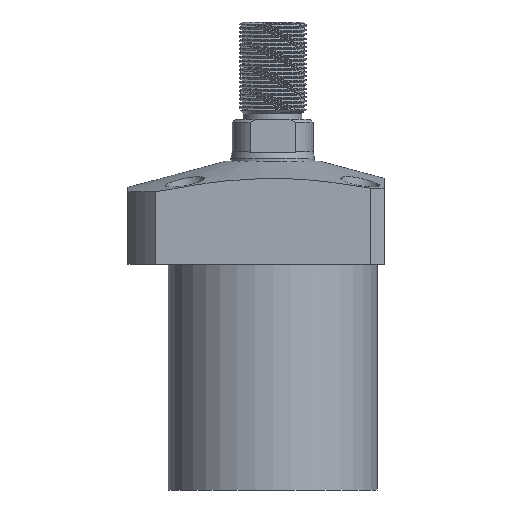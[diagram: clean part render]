
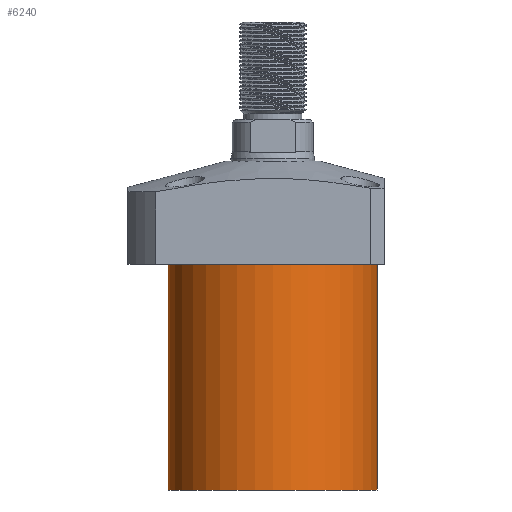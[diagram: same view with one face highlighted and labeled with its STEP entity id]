
A CAD part, front view. The second image highlights one B-rep face of the part: STEP entity #6240.
In plain terms, the highlighted cylindrical face has radius 37.5 mm (diameter 75 mm), a partial arc.
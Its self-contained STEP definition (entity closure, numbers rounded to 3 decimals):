
#307 = CIRCLE ( 'NONE', #405, 37.5 ) ;
#321 = CARTESIAN_POINT ( 'NONE',  ( -37.5, 0., -99.5 ) ) ;
#388 = DIRECTION ( 'NONE',  ( 0., 0., -1. ) ) ;
#391 = AXIS2_PLACEMENT_3D ( 'NONE', #5739, #2572, #1335 ) ;
#396 = ORIENTED_EDGE ( 'NONE', *, *, #6704, .F. ) ;
#405 = AXIS2_PLACEMENT_3D ( 'NONE', #6884, #3768, #873 ) ;
#506 = CARTESIAN_POINT ( 'NONE',  ( 37.5, 0., -18.5 ) ) ;
#553 = EDGE_CURVE ( 'NONE', #3119, #1121, #2067, .T. ) ;
#644 = CARTESIAN_POINT ( 'NONE',  ( -37.5, 0., -99.5 ) ) ;
#873 = DIRECTION ( 'NONE',  ( -1., 0., 0. ) ) ;
#942 = VECTOR ( 'NONE', #6885, 1000. ) ;
#1111 = VERTEX_POINT ( 'NONE', #321 ) ;
#1121 = VERTEX_POINT ( 'NONE', #4653 ) ;
#1231 = CARTESIAN_POINT ( 'NONE',  ( 37.5, 0., -99.5 ) ) ;
#1335 = DIRECTION ( 'NONE',  ( 1., 0., 0. ) ) ;
#1974 = CYLINDRICAL_SURFACE ( 'NONE', #391, 37.5 ) ;
#2067 = CIRCLE ( 'NONE', #4655, 37.5 ) ;
#2182 = VERTEX_POINT ( 'NONE', #3950 ) ;
#2572 = DIRECTION ( 'NONE',  ( 0., 0., 1. ) ) ;
#2611 = LINE ( 'NONE', #1231, #942 ) ;
#2966 = ORIENTED_EDGE ( 'NONE', *, *, #553, .T. ) ;
#3119 = VERTEX_POINT ( 'NONE', #506 ) ;
#3301 = ORIENTED_EDGE ( 'NONE', *, *, #4933, .F. ) ;
#3768 = DIRECTION ( 'NONE',  ( 0., 0., -1. ) ) ;
#3950 = CARTESIAN_POINT ( 'NONE',  ( 37.5, 0., -99.5 ) ) ;
#4482 = VECTOR ( 'NONE', #5001, 1000. ) ;
#4653 = CARTESIAN_POINT ( 'NONE',  ( -37.5, 0., -18.5 ) ) ;
#4655 = AXIS2_PLACEMENT_3D ( 'NONE', #7855, #388, #7217 ) ;
#4933 = EDGE_CURVE ( 'NONE', #1111, #1121, #7966, .T. ) ;
#5001 = DIRECTION ( 'NONE',  ( 0., 0., 1. ) ) ;
#5358 = ORIENTED_EDGE ( 'NONE', *, *, #7480, .T. ) ;
#5503 = EDGE_LOOP ( 'NONE', ( #3301, #396, #5358, #2966 ) ) ;
#5739 = CARTESIAN_POINT ( 'NONE',  ( 0., 0., -99.5 ) ) ;
#6240 = ADVANCED_FACE ( 'NONE', ( #6753 ), #1974, .T. ) ;
#6704 = EDGE_CURVE ( 'NONE', #2182, #1111, #307, .T. ) ;
#6753 = FACE_OUTER_BOUND ( 'NONE', #5503, .T. ) ;
#6884 = CARTESIAN_POINT ( 'NONE',  ( 0., 0., -99.5 ) ) ;
#6885 = DIRECTION ( 'NONE',  ( 0., 0., 1. ) ) ;
#7217 = DIRECTION ( 'NONE',  ( 1., 0., 0. ) ) ;
#7480 = EDGE_CURVE ( 'NONE', #2182, #3119, #2611, .T. ) ;
#7855 = CARTESIAN_POINT ( 'NONE',  ( 0., 0., -18.5 ) ) ;
#7966 = LINE ( 'NONE', #644, #4482 ) ;
